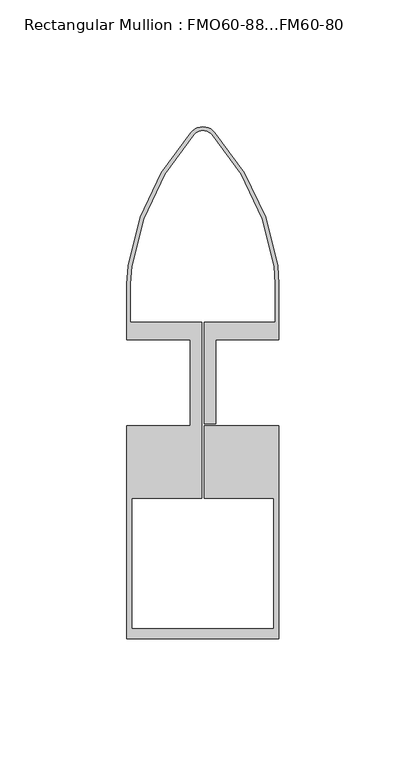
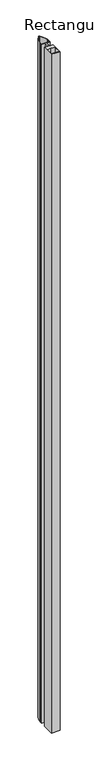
"""IFC4 building model written with IfcOpenShell, lengths in millimetres: member geometry, Rectangular Mullion : FMO60-88...FM60-80."""

from ifc_helpers import new_model, si_unit, frame, origin, place, context, project, spatial, polyline, circle_curve, source, transform, mapped, element, save
from ifc_brep_helpers import plane_surface, cylinder_surface, revolved_surface, advanced_brep


def rectangular_mullion_fmo60_88_fm60_80_312be118(model_context):
    return source(origin(), model_context, "Body", "AdvancedBrep", [
        advanced_brep(
        [(28.0754927, 46.0342032, 0.0), (28.6, 38.9133183, 0.0), (28.6, 23.8476589, 0.0), (0.5, 23.8476589, 0.0), (0.5, -16.2, 0.0), (5.0, -16.2, 0.0), (5.0, 17.0, 0.0), (30.0, 17.0, 0.0), (30.0, 38.9133183, 0.0), (29.4612692, 46.2333488, 0.0), (4.7233463, 98.6502996, 0.0), (0.0, 100.9502996, 0.0), (-4.7233463, 98.6502996, 0.0), (-29.4612692, 46.2333488, 0.0), (-30.0, 38.9133183, 0.0), (-30.0, 17.0, 0.0), (-5.0, 17.0, 0.0), (-5.0, -17.0, 0.0), (-30.0, -17.0, 0.0), (-30.0, -101.009342, 0.0), (30.0, -101.009342, 0.0), (30.0, -17.0, 0.0), (0.5, -17.0, 0.0), (0.5, -45.5034642, 0.0), (28.0, -45.5034642, 0.0), (28.0, -97.009342, 0.0), (-28.0, -97.009342, 0.0), (-28.0, -45.5034642, 0.0), (-0.5, -45.5034642, 0.0), (-0.5, 23.8476589, 0.0), (-28.6, 23.8476589, 0.0), (-28.6, 38.9133183, 0.0), (-28.0754927, 46.0342032, 0.0), (-3.6212321, 97.7869663, 0.0), (0.0, 99.5502996, 0.0), (3.6212321, 97.7869663, 0.0), (28.0763537, 46.0283879, -5000.0), (3.6212321, 97.7869663, -5000.0), (0.0, 99.5502996, -5000.0), (-3.6212321, 97.7869663, -5000.0), (-28.0763537, 46.0283879, -5000.0), (-28.6, 38.9133183, -5000.0), (-28.6, 23.8476589, -5000.0), (-0.5, 23.8476589, -5000.0), (-0.5, -45.5034642, -5000.0), (-28.0, -45.5034642, -5000.0), (-28.0, -97.009342, -5000.0), (28.0, -97.009342, -5000.0), (28.0, -45.5034642, -5000.0), (0.5, -45.5034642, -5000.0), (0.5, -17.0, -5000.0), (30.0, -17.0, -5000.0), (30.0, -101.009342, -5000.0), (-30.0, -101.009342, -5000.0), (-30.0, -17.0, -5000.0), (-5.0, -17.0, -5000.0), (-5.0, 17.0, -5000.0), (-30.0, 17.0, -5000.0), (-30.0, 38.9133183, -5000.0), (-29.4612692, 46.2333488, -5000.0), (-4.7233463, 98.6502996, -5000.0), (0.0, 100.9502996, -5000.0), (4.7233463, 98.6502996, -5000.0), (29.4612692, 46.2333488, -5000.0), (30.0, 38.9133183, -5000.0), (30.0, 17.0, -5000.0), (5.0, 17.0, -5000.0), (5.0, -16.2, -5000.0), (0.5, -16.2, -5000.0), (0.5, 23.8476589, -5000.0), (28.6, 23.8476589, -5000.0), (28.6, 38.9133183, -5000.0)],
        [
            (0, 1, circle_curve(frame((-20.0, 38.9133183, 0.0), z_axis=(0.0, 0.0, -1.0), x_axis=(0.9892253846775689, 0.14640060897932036, 0.0)), 48.6)),
            (1, 2),
            (2, 3),
            (3, 4),
            (4, 5),
            (5, 6),
            (6, 7),
            (7, 8),
            (8, 9, circle_curve(frame((-20.0, 38.9133183, 0.0), z_axis=(0.0, 0.0, 1.0), x_axis=(1.0, 0.0, 0.0)), 50.0)),
            (9, 10, circle_curve(frame((-69.4612692, 31.5932879, 0.0), z_axis=(0.0, 0.0, 1.0), x_axis=(0.9892253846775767, 0.14640060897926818, 0.0)), 100.0)),
            (10, 11, circle_curve(frame((0.0, 94.9502996, 0.0), z_axis=(0.0, 0.0, 1.0), x_axis=(0.7872243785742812, 0.6166666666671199, 0.0)), 6.0)),
            (11, 12, circle_curve(frame((0.0, 94.9502996, 0.0), z_axis=(0.0, 0.0, 1.0), x_axis=(0.0, 1.0, 0.0)), 6.0)),
            (12, 13, circle_curve(frame((69.4612692, 31.5932879, 0.0), z_axis=(0.0, 0.0, 1.0), x_axis=(-0.7418461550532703, 0.6705701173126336, 0.0)), 100.0)),
            (13, 14, circle_curve(frame((20.0, 38.9133183, 0.0), z_axis=(0.0, 0.0, 1.0), x_axis=(-0.9892253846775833, 0.14640060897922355, 0.0)), 50.0)),
            (14, 15),
            (15, 16),
            (16, 17),
            (17, 18),
            (18, 19),
            (19, 20),
            (20, 21),
            (21, 22),
            (22, 23),
            (23, 24),
            (24, 25),
            (25, 26),
            (26, 27),
            (27, 28),
            (28, 29),
            (29, 30),
            (30, 31),
            (31, 32, circle_curve(frame((20.0, 38.9133183, 0.0), z_axis=(0.0, 0.0, -1.0), x_axis=(-1.0, 0.0, 0.0)), 48.6)),
            (32, 33, circle_curve(frame((69.5008187, 31.5813159, 0.0), z_axis=(0.0, 0.0, -1.0), x_axis=(-0.9892163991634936, 0.14646131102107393, 0.0)), 98.6408763)),
            (33, 34, circle_curve(frame((0.0, 94.9502996, 0.0), z_axis=(0.0, 0.0, -1.0), x_axis=(-0.7872243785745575, 0.6166666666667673, 0.0)), 4.6)),
            (34, 35, circle_curve(frame((0.0, 94.9502996, 0.0), z_axis=(0.0, 0.0, -1.0), x_axis=(0.0, 1.0, 0.0)), 4.6)),
            (35, 0, circle_curve(frame((-69.5008187, 31.5813159, 0.0), z_axis=(0.0, 0.0, -1.0), x_axis=(0.7412956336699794, 0.6711786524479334, 0.0)), 98.6408763)),
            (36, 37, circle_curve(frame((-69.5008187, 31.5813159, -5000.0), z_axis=(0.0, 0.0, 1.0), x_axis=(0.7412956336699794, 0.6711786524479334, 0.0)), 98.6408763)),
            (37, 38, circle_curve(frame((0.0, 94.9502996, -5000.0), z_axis=(0.0, 0.0, 1.0), x_axis=(0.0, 1.0, 0.0)), 4.6)),
            (38, 39, circle_curve(frame((0.0, 94.9502996, -5000.0), z_axis=(0.0, 0.0, 1.0), x_axis=(-0.7872243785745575, 0.6166666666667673, 0.0)), 4.6)),
            (39, 40, circle_curve(frame((69.5008187, 31.5813159, -5000.0), z_axis=(0.0, 0.0, 1.0), x_axis=(-0.9892163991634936, 0.14646131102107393, 0.0)), 98.6408763)),
            (40, 41, circle_curve(frame((20.0, 38.9133183, -5000.0), z_axis=(0.0, 0.0, 1.0), x_axis=(-1.0, 0.0, 0.0)), 48.6)),
            (41, 42),
            (42, 43),
            (43, 44),
            (44, 45),
            (45, 46),
            (46, 47),
            (47, 48),
            (48, 49),
            (49, 50),
            (50, 51),
            (51, 52),
            (52, 53),
            (53, 54),
            (54, 55),
            (55, 56),
            (56, 57),
            (57, 58),
            (58, 59, circle_curve(frame((20.0, 38.9133183, -5000.0), z_axis=(0.0, 0.0, -1.0), x_axis=(-0.9892253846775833, 0.14640060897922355, 0.0)), 50.0)),
            (59, 60, circle_curve(frame((69.4612692, 31.5932879, -5000.0), z_axis=(0.0, 0.0, -1.0), x_axis=(-0.7418461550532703, 0.6705701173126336, 0.0)), 100.0)),
            (60, 61, circle_curve(frame((0.0, 94.9502996, -5000.0), z_axis=(0.0, 0.0, -1.0), x_axis=(0.0, 1.0, 0.0)), 6.0)),
            (61, 62, circle_curve(frame((0.0, 94.9502996, -5000.0), z_axis=(0.0, 0.0, -1.0), x_axis=(0.7872243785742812, 0.6166666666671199, 0.0)), 6.0)),
            (62, 63, circle_curve(frame((-69.4612692, 31.5932879, -5000.0), z_axis=(0.0, 0.0, -1.0), x_axis=(0.9892253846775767, 0.14640060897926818, 0.0)), 100.0)),
            (63, 64, circle_curve(frame((-20.0, 38.9133183, -5000.0), z_axis=(0.0, 0.0, -1.0), x_axis=(1.0, 0.0, 0.0)), 50.0)),
            (64, 65),
            (65, 66),
            (66, 67),
            (67, 68),
            (68, 69),
            (69, 70),
            (70, 71),
            (71, 36, circle_curve(frame((-20.0, 38.9133183, -5000.0), z_axis=(0.0, 0.0, 1.0), x_axis=(0.9892253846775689, 0.14640060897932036, 0.0)), 48.6)),
            (0, 36),
            (71, 1),
            (70, 2),
            (69, 3),
            (68, 4),
            (67, 5),
            (66, 6),
            (65, 7),
            (64, 8),
            (63, 9),
            (62, 10),
            (61, 11),
            (60, 12),
            (59, 13),
            (58, 14),
            (57, 15),
            (56, 16),
            (55, 17),
            (54, 18),
            (53, 19),
            (52, 20),
            (51, 21),
            (50, 22),
            (49, 23),
            (48, 24),
            (47, 25),
            (46, 26),
            (45, 27),
            (44, 28),
            (43, 29),
            (42, 30),
            (41, 31),
            (40, 32),
            (39, 33),
            (38, 34),
            (37, 35),
        ],
        [
            plane_surface(frame((0.0, -105.3702386, 0.0), z_axis=(0.0, 0.0, 1.0), x_axis=(-1.0, 0.0, 0.0))),
            plane_surface(frame((0.0, -105.3702386, -5000.0), z_axis=(0.0, 0.0, -1.0), x_axis=(-1.0, 0.0, 0.0))),
            revolved_surface(polyline([(28.07635369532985, 46.02838789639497, -5000.0), (28.07635369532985, 46.02838789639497, 0.0)]), (-20.0, 38.9133183, 0.0), (0.0, 0.0, -1.0)),
            plane_surface(frame((28.6, 38.9133183, 0.0), z_axis=(-1.0, 0.0, 0.0), x_axis=(0.0, 0.0, -1.0))),
            plane_surface(frame((28.6, 23.8476589, 0.0), z_axis=(0.0, 1.0, 0.0), x_axis=(0.0, 0.0, -1.0))),
            plane_surface(frame((0.5, 23.8476589, 0.0), z_axis=(-1.0, 0.0, 0.0), x_axis=(0.0, 0.0, -1.0))),
            plane_surface(frame((0.5, -16.2, 0.0), z_axis=(0.0, -1.0, 0.0), x_axis=(0.0, 0.0, -1.0))),
            plane_surface(frame((5.0, -16.2, 0.0), z_axis=(1.0, 0.0, 0.0), x_axis=(0.0, 0.0, -1.0))),
            plane_surface(frame((5.0, 17.0, 0.0), z_axis=(0.0, -1.0, 0.0), x_axis=(0.0, 0.0, -1.0))),
            plane_surface(frame((30.0, 17.0, 0.0), z_axis=(1.0, 0.0, 0.0), x_axis=(0.0, 0.0, -1.0))),
            cylinder_surface(frame((-20.0, 38.9133183, 0.0), z_axis=(0.0, 0.0, 1.0), x_axis=(1.0, 0.0, 0.0)), 50.0),
            cylinder_surface(frame((-69.4612692, 31.5932879, 0.0), z_axis=(0.0, 0.0, 1.0000000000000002), x_axis=(0.9892253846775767, 0.14640060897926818, 0.0)), 100.0),
            cylinder_surface(frame((0.0, 94.9502996, 0.0), z_axis=(0.0, 0.0, 1.0), x_axis=(0.7872243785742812, 0.6166666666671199, 0.0)), 6.0),
            cylinder_surface(frame((0.0, 94.9502996, 0.0), z_axis=(0.0, 0.0, 1.0), x_axis=(0.0, 1.0, 0.0)), 6.0),
            cylinder_surface(frame((69.4612692, 31.5932879, 0.0), z_axis=(0.0, 0.0, 1.0), x_axis=(-0.7418461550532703, 0.6705701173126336, 0.0)), 100.0),
            cylinder_surface(frame((20.0, 38.9133183, 0.0), z_axis=(0.0, 0.0, 1.0), x_axis=(-0.9892253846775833, 0.14640060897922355, 0.0)), 50.0),
            plane_surface(frame((-30.0, 38.9133183, 0.0), z_axis=(-1.0, 0.0, 0.0), x_axis=(0.0, 0.0, -1.0))),
            plane_surface(frame((-30.0, 17.0, 0.0), z_axis=(0.0, -1.0, 0.0), x_axis=(0.0, 0.0, -1.0))),
            plane_surface(frame((-5.0, 17.0, 0.0), z_axis=(-1.0, 0.0, 0.0), x_axis=(0.0, 0.0, -1.0))),
            plane_surface(frame((-5.0, -17.0, 0.0), z_axis=(0.0, 1.0, 0.0), x_axis=(0.0, 0.0, -1.0))),
            plane_surface(frame((-30.0, -17.0, 0.0), z_axis=(-1.0, 0.0, 0.0), x_axis=(0.0, 0.0, -1.0))),
            plane_surface(frame((-30.0, -101.009342, 0.0), z_axis=(0.0, -1.0, 0.0), x_axis=(0.0, 0.0, -1.0))),
            plane_surface(frame((30.0, -101.009342, 0.0), z_axis=(1.0, 0.0, 0.0), x_axis=(0.0, 0.0, -1.0))),
            plane_surface(frame((30.0, -17.0, 0.0), z_axis=(0.0, 1.0, 0.0), x_axis=(0.0, 0.0, -1.0))),
            plane_surface(frame((0.5, -17.0, 0.0), z_axis=(-1.0, 0.0, 0.0), x_axis=(0.0, 0.0, -1.0))),
            plane_surface(frame((0.5, -45.5034642, 0.0), z_axis=(0.0, -1.0, 0.0), x_axis=(0.0, 0.0, -1.0))),
            plane_surface(frame((28.0, -45.5034642, 0.0), z_axis=(-1.0, 0.0, 0.0), x_axis=(0.0, 0.0, -1.0))),
            plane_surface(frame((28.0, -97.009342, 0.0), z_axis=(0.0, 1.0, 0.0), x_axis=(0.0, 0.0, -1.0))),
            plane_surface(frame((-28.0, -97.009342, 0.0), z_axis=(1.0, 0.0, 0.0), x_axis=(0.0, 0.0, -1.0))),
            plane_surface(frame((-28.0, -45.5034642, 0.0), z_axis=(0.0, -1.0, 0.0), x_axis=(0.0, 0.0, -1.0))),
            plane_surface(frame((-0.5, -45.5034642, 0.0), z_axis=(1.0, 0.0, 0.0), x_axis=(0.0, 0.0, -1.0))),
            plane_surface(frame((-0.5, 23.8476589, 0.0), z_axis=(0.0, 1.0, 0.0), x_axis=(0.0, 0.0, -1.0))),
            plane_surface(frame((-28.6, 23.8476589, 0.0), z_axis=(1.0, 0.0, 0.0), x_axis=(0.0, 0.0, -1.0))),
            revolved_surface(polyline([(-28.6, 38.9133183, -5000.0), (-28.6, 38.9133183, 0.0)]), (20.0, 38.9133183, 0.0), (0.0, 0.0, -1.0)),
            revolved_surface(polyline([(-28.076353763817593, 46.02838796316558, -5000.0), (-28.076353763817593, 46.02838796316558, 0.0)]), (69.5008187, 31.5813159, 0.0), (0.0, 0.0, -1.0)),
            revolved_surface(polyline([(-3.6212321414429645, 97.78696626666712, -5000.000000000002), (-3.6212321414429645, 97.78696626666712, 0.0)]), (0.0, 94.9502996, 0.0), (0.0, 0.0, -1.0000000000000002)),
            revolved_surface(polyline([(0.0, 99.55029959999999, -5000.0), (0.0, 99.55029959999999, 0.0)]), (0.0, 94.9502996, 0.0), (0.0, 0.0, -1.0)),
            revolved_surface(polyline([(3.6212322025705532, 97.7869663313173, -5000.000000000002), (3.6212322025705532, 97.7869663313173, 0.0)]), (-69.5008187, 31.5813159, 0.0), (0.0, 0.0, -1.0000000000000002)),
        ],
        [
            (0, [[1, 2, 3, 4, 5, 6, 7, 8, 9, 10, 11, 12, 13, 14, 15, 16, 17, 18, 19, 20, 21, 22, 23, 24, 25, 26, 27, 28, 29, 30, 31, 32, 33, 34, 35, 36]]),
            (1, [[37, 38, 39, 40, 41, 42, 43, 44, 45, 46, 47, 48, 49, 50, 51, 52, 53, 54, 55, 56, 57, 58, 59, 60, 61, 62, 63, 64, 65, 66, 67, 68, 69, 70, 71, 72]]),
            (2, [[-1, 73, -72, 74]]),
            (3, [[-2, -74, -71, 75]]),
            (4, [[-3, -75, -70, 76]]),
            (5, [[-4, -76, -69, 77]]),
            (6, [[-5, -77, -68, 78]]),
            (7, [[-6, -78, -67, 79]]),
            (8, [[-7, -79, -66, 80]]),
            (9, [[-8, -80, -65, 81]]),
            (10, [[-9, -81, -64, 82]]),
            (11, [[-10, -82, -63, 83]]),
            (12, [[-11, -83, -62, 84]]),
            (13, [[-12, -84, -61, 85]]),
            (14, [[-13, -85, -60, 86]]),
            (15, [[-14, -86, -59, 87]]),
            (16, [[-15, -87, -58, 88]]),
            (17, [[-16, -88, -57, 89]]),
            (18, [[-17, -89, -56, 90]]),
            (19, [[-18, -90, -55, 91]]),
            (20, [[-19, -91, -54, 92]]),
            (21, [[-20, -92, -53, 93]]),
            (22, [[-21, -93, -52, 94]]),
            (23, [[-22, -94, -51, 95]]),
            (24, [[-23, -95, -50, 96]]),
            (25, [[-24, -96, -49, 97]]),
            (26, [[-25, -97, -48, 98]]),
            (27, [[-26, -98, -47, 99]]),
            (28, [[-27, -99, -46, 100]]),
            (29, [[-28, -100, -45, 101]]),
            (30, [[-29, -101, -44, 102]]),
            (31, [[-30, -102, -43, 103]]),
            (32, [[-31, -103, -42, 104]]),
            (33, [[-32, -104, -41, 105]]),
            (34, [[-33, -105, -40, 106]]),
            (35, [[-34, -106, -39, 107]]),
            (36, [[-35, -107, -38, 108]]),
            (37, [[-36, -108, -37, -73]]),
        ],
    ),
    ])


if __name__ == "__main__":
    model = new_model("IFC4")
    model_context = context("Model", 3, world=origin())
    ifc_project = project(units=[si_unit("LENGTHUNIT", "METRE", prefix="MILLI")], contexts=[model_context])
    site = spatial("IfcSite", under=ifc_project)
    building = spatial("IfcBuilding", under=site)
    placement = place(None, origin())
    rectangular_mullion_fmo60_88_fm60_80_shape = rectangular_mullion_fmo60_88_fm60_80_312be118(model_context)
    element("IfcMember", 1, ObjectType="Rectangular Mullion : FMO60-88...FM60-80", at=placement, inside=building, context=model_context, shape_type="MappedRepresentation", body=[
        mapped(rectangular_mullion_fmo60_88_fm60_80_shape, transform((0.0, 0.0, 0.0), x_axis=(1.0, 0.0, 0.0), y_axis=(0.0, 1.0, 0.0), z_axis=(0.0, 0.0, 1.0))),
    ])
    save(model, "model.ifc")
